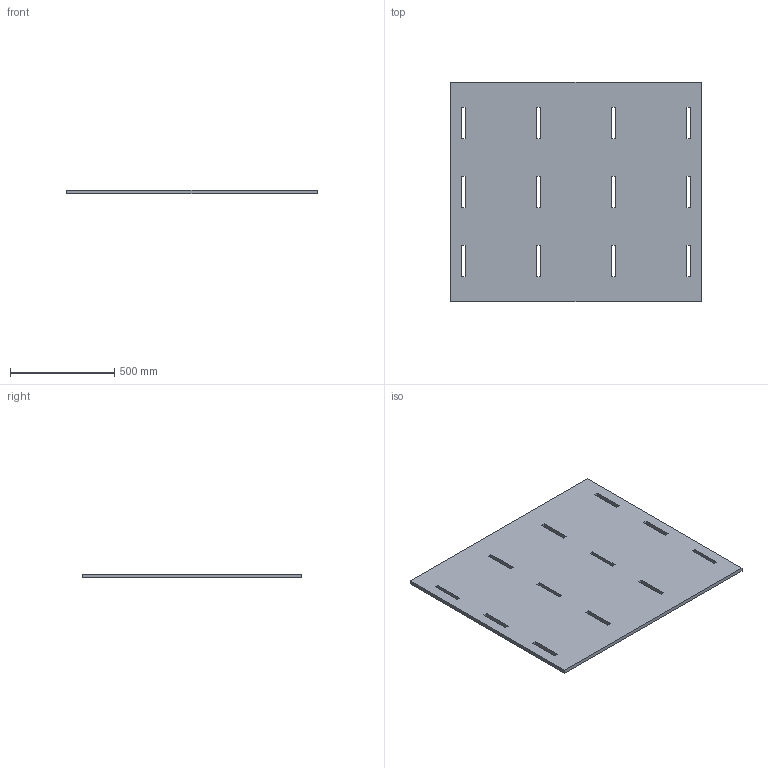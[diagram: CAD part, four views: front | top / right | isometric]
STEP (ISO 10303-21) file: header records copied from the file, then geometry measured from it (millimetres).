
FILE_DESCRIPTION(('Open CASCADE Model'),'2;1');
FILE_NAME('Open CASCADE Shape Model','2026-09-27T09:36:05',('Author'),( 'Open CASCADE'),'Open CASCADE STEP processor 7.9','Open CASCADE 7.9' ,'Unknown');
FILE_SCHEMA(('AUTOMOTIVE_DESIGN { 1 0 10303 214 1 1 1 1 }'));
Length unit declared in the file: millimetre
Products named in the file (1): Open CASCADE STEP translator 7.9 1
Bounding box: 1200 x 1050 x 18 mm (x, y, z)
Volume: 22090320 mm3; surface area: 2608142.4 mm2
Topology: 1 solids, 1 shells, 54 faces, 156 edges, 104 vertices
Faces by surface type: plane 54
Entity records: 3634 total; most frequent: CARTESIAN_POINT 819, DIRECTION 386, ORIENTED_EDGE 312, PCURVE 312, DEFINITIONAL_REPRESENTATION 312, LINE 276, VECTOR 276, B_SPLINE_CURVE_WITH_KNOTS 192
